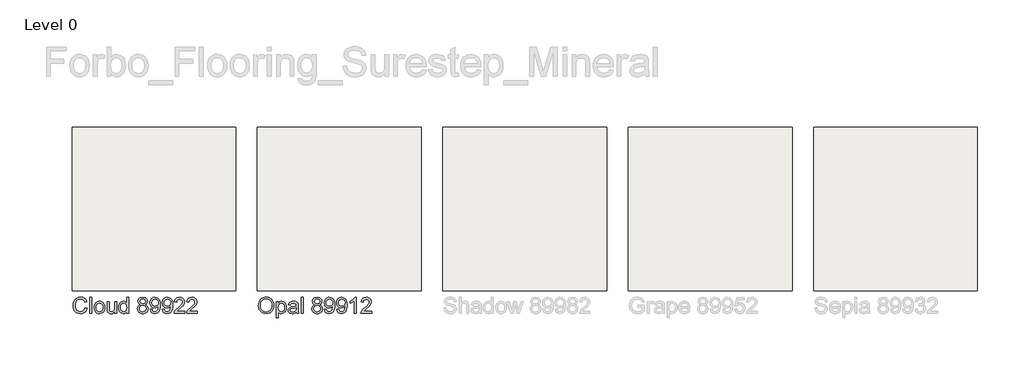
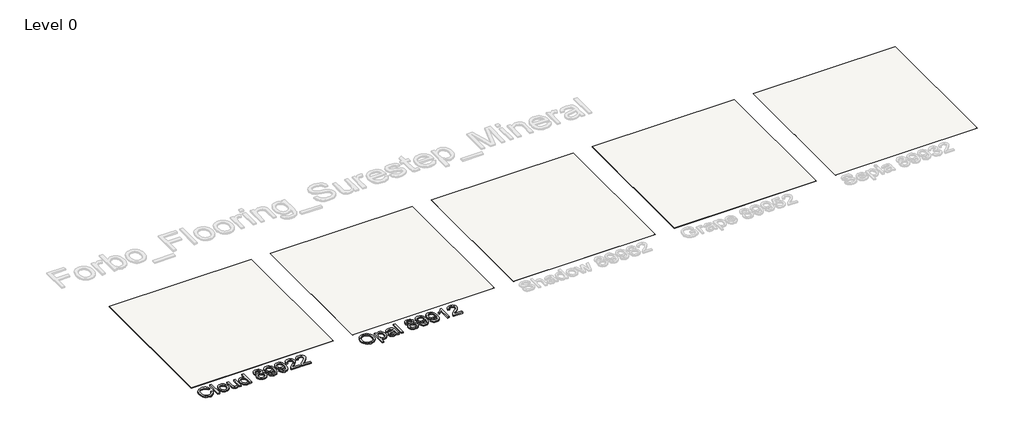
# One storey, part 1 of 4: 5 slabs, 2 proxies.
"""IFC4 building model written with IfcOpenShell, lengths in millimetres."""

from ifc_helpers import new_model, si_unit, frame, origin, origin_with_axes, place, context, project, spatial, polyline, outline, extrude, element, save

model = new_model("IFC4")

# Units and contexts
model_context = context("Model", 3, world=origin())
ifc_project = project(units=[si_unit("LENGTHUNIT", "METRE", prefix="MILLI")], contexts=[model_context])

# Site, building, storey
site = spatial("IfcSite", under=ifc_project)
building = spatial("IfcBuilding", under=site)
storey = spatial("IfcBuildingStorey", under=building, Name="Level 0", Elevation=0.0)

# Proxies
placement = place(None, origin())
element("IfcBuildingElementProxy", 1, Name="300mm Arial", ObjectType="300mm Arial", at=placement, inside=storey, context=model_context, shape_type="SweptSolid", body=[
    extrude(outline(polyline([(-3306.5255394, 2249.3730602), (-3269.6024625, 2239.8538294), (-3276.9086524, 2216.8918403), (-3286.6397221, 2196.8279881), (-3298.7956716, 2179.662273), (-3313.3765009, 2165.3946948), (-3330.0531836, 2154.1784989), (-3348.4966932, 2146.1669304), (-3368.7070298, 2141.3599893), (-3390.6841932, 2139.7576756), (-3433.5117173, 2144.6074352), (-3467.5231355, 2159.1567141), (-3493.5928471, 2182.9007044), (-3512.5952509, 2215.3345987), (-3524.1968134, 2253.4656083), (-3528.0640009, 2294.3009448), (-3523.6920057, 2337.3718583), (-3510.5760202, 2374.5653679), (-3489.4011404, 2404.7005842), (-3460.8524625, 2426.5966179), (-3426.9942894, 2439.9289496), (-3389.890924, 2444.3730602), (-3349.40715, 2438.6218583), (-3331.7952209, 2431.4328559), (-3315.9365971, 2421.3682525), (-3302.0926968, 2408.6939737), (-3290.5249384, 2393.6759448), (-3274.2178471, 2356.6086371), (-3311.140924, 2347.8105602), (-3323.9414048, 2374.7366419), (-3341.4293855, 2393.2071948), (-3363.8212125, 2403.8892862), (-3391.3332317, 2407.4499833), (-3423.0459721, 2403.501666), (-3449.0976548, 2391.6567141), (-3468.8662846, 2373.1591179), (-3481.7298663, 2349.2528679), (-3488.7881596, 2322.2276275), (-3491.140924, 2294.3730602), (-3488.3554673, 2260.2624833), (-3479.9990971, 2230.767291), (-3465.7563086, 2207.0142862), (-3445.3115971, 2190.1302717), (-3420.8013807, 2180.0431323), (-3394.3620779, 2176.6807525), (-3363.5417654, 2181.2600794), (-3337.859674, 2194.9980602), (-3318.46965, 2217.7504641), (-3306.5255394, 2249.3730602)])), origin_with_axes(), (0.0, 0.0, 1.0), 25.0),
    extrude(outline(polyline([(-3223.4486163, 2144.3730602), (-3223.4486163, 2439.7576756), (-3186.5255394, 2439.7576756), (-3186.5255394, 2144.3730602), (-3223.4486163, 2144.3730602)])), origin_with_axes(), (0.0, 0.0, 1.0), 25.0),
    extrude(outline(polyline([(-3140.3716932, 2252.8345987), (-3138.3749985, 2280.9280482), (-3132.3849144, 2305.1362814), (-3122.4014408, 2325.4592982), (-3108.4245779, 2341.8970987), (-3094.3530634, 2352.4034088), (-3078.8212125, 2359.907916), (-3061.829025, 2364.4106203), (-3043.3765009, 2365.9115217), (-3023.0061584, 2364.0838475), (-3004.5874384, 2358.6008246), (-2988.1203411, 2349.4624532), (-2973.6048663, 2336.6687333), (-2961.7576608, 2320.6523571), (-2953.2953711, 2301.8460169), (-2948.2179973, 2280.2497129), (-2946.5255394, 2255.8634448), (-2949.5183279, 2218.5617621), (-2958.4966932, 2190.1663294), (-2973.1992173, 2168.9013054), (-2993.3644817, 2152.9908487), (-3017.3158038, 2143.0659689), (-3043.3765009, 2139.7576756), (-3064.0443194, 2141.5785891), (-3082.6343134, 2147.0413294), (-3099.1464829, 2156.1458967), (-3113.5808279, 2168.892291), (-3125.3018315, 2185.064166), (-3133.6739769, 2204.4451756), (-3138.6972641, 2227.0353198), (-3140.3716932, 2252.8345987)]), holes=[polyline([(-3103.4486163, 2252.9067141), (-3099.1757798, 2219.4902477), (-3086.3572702, 2195.6831564), (-3067.0664048, 2181.4313535), (-3043.3765009, 2176.6807525), (-3019.7947702, 2181.4583967), (-3000.5399625, 2195.7913294), (-2987.7214529, 2219.9139256), (-2983.4486163, 2254.0605602), (-2987.7484961, 2286.5034689), (-3000.6481355, 2309.986041), (-3019.9299865, 2324.2378439), (-3043.3765009, 2328.9884448), (-3067.0664048, 2324.2558727), (-3086.3572702, 2310.0581564), (-3099.1757798, 2286.3051516), (-3103.4486163, 2252.9067141)])]), origin_with_axes(), (0.0, 0.0, 1.0), 25.0),
    extrude(outline(polyline([(-2766.5255394, 2144.3730602), (-2766.5255394, 2181.6567141), (-2779.8849144, 2163.3258847), (-2795.4438086, 2150.2324352), (-2813.2022221, 2142.3763655), (-2833.1601548, 2139.7576756), (-2851.1439288, 2141.5966179), (-2867.8837125, 2147.1134448), (-2881.9281836, 2155.4067141), (-2891.8260202, 2165.5749833), (-2902.8236163, 2192.7624833), (-2904.9870779, 2227.0894064), (-2904.9870779, 2361.2961371), (-2868.0640009, 2361.2961371), (-2868.0640009, 2244.4692141), (-2865.828424, 2206.8249833), (-2860.4468134, 2194.2678919), (-2851.2250586, 2184.7216179), (-2838.7761404, 2178.6909689), (-2823.7130394, 2176.6807525), (-2807.7845538, 2178.736041), (-2792.8837125, 2184.9019064), (-2780.5970538, 2194.61044), (-2772.5111163, 2207.2937333), (-2768.0219336, 2224.6645266), (-2766.5255394, 2248.4355602), (-2766.5255394, 2361.2961371), (-2729.6024625, 2361.2961371), (-2729.6024625, 2144.3730602), (-2766.5255394, 2144.3730602)])), origin_with_axes(), (0.0, 0.0, 1.0), 25.0),
    extrude(outline(polyline([(-2544.9870779, 2144.3730602), (-2544.9870779, 2179.204791), (-2556.0342533, 2161.946678), (-2569.4161644, 2149.6194544), (-2585.132811, 2142.2231203), (-2603.1841932, 2139.7576756), (-2627.0543855, 2143.3273871), (-2648.9053471, 2154.0365217), (-2667.4029432, 2171.1368823), (-2681.2130394, 2193.8802717), (-2689.812799, 2221.3472189), (-2692.6793855, 2252.6182525), (-2690.0381596, 2283.501666), (-2682.1144817, 2311.392291), (-2668.9173663, 2334.7035891), (-2650.4558279, 2351.8490217), (-2628.1271019, 2362.3958967), (-2603.328424, 2365.9115217), (-2585.2635202, 2363.3964977), (-2569.2899625, 2355.8514256), (-2555.750299, 2344.2859208), (-2544.9870779, 2329.7095987), (-2544.9870779, 2439.7576756), (-2508.0640009, 2439.7576756), (-2508.0640009, 2144.3730602), (-2544.9870779, 2144.3730602)]), holes=[polyline([(-2655.7563086, 2252.7624833), (-2651.5916452, 2219.3640458), (-2639.0976548, 2195.611041), (-2620.9426067, 2181.4133246), (-2599.7947702, 2176.6807525), (-2578.655948, 2181.1969785), (-2560.9606355, 2194.7456564), (-2548.9804673, 2217.57919), (-2544.9870779, 2249.9499833), (-2549.0525827, 2285.3406083), (-2561.2490971, 2309.8778679), (-2579.3951307, 2324.2108006), (-2601.3091932, 2328.9884448), (-2622.6733759, 2324.4001035), (-2640.1793855, 2310.6350794), (-2651.8620779, 2286.9902477), (-2655.7563086, 2252.7624833)])]), origin_with_axes(), (0.0, 0.0, 1.0), 25.0),
    extrude(outline(polyline([(-2292.7274625, 2307.0653679), (-2312.4960923, 2316.8009448), (-2326.3692894, 2329.9980602), (-2334.5634, 2346.3862814), (-2337.2947702, 2365.6951756), (-2331.3452509, 2394.5593583), (-2313.4966932, 2418.4115217), (-2300.6105754, 2427.7504641), (-2285.750299, 2434.4211371), (-2250.1072702, 2439.7576756), (-2214.2478952, 2434.2949352), (-2199.2253591, 2427.4665097), (-2186.140924, 2417.9067141), (-2167.9678471, 2393.6759448), (-2163.4245779, 2379.7757044), (-2161.9101548, 2364.6855602), (-2164.6054673, 2345.9986612), (-2172.6914048, 2329.8898871), (-2186.2581115, 2316.7739016), (-2205.3957317, 2307.0653679), (-2182.6703711, 2295.3556323), (-2166.1289048, 2278.111041), (-2156.0417654, 2256.1609208), (-2152.6793855, 2230.3345987), (-2154.3470538, 2211.9181323), (-2159.3500586, 2195.0341179), (-2167.6884, 2179.6825554), (-2179.3620779, 2165.8634448), (-2193.7581115, 2154.4421708), (-2210.2635202, 2146.2841179), (-2228.8783038, 2141.3892862), (-2249.6024625, 2139.7576756), (-2270.3266211, 2141.396047), (-2288.9414048, 2146.3111612), (-2305.4468134, 2154.5030181), (-2319.8428471, 2165.9716179), (-2331.516525, 2179.8876335), (-2339.8548663, 2195.4217381), (-2344.8578711, 2212.5739316), (-2346.5255394, 2231.3442141), (-2343.0279432, 2258.1711371), (-2332.5351548, 2280.2384448), (-2315.5880394, 2296.7889256), (-2292.7274625, 2307.0653679)]), holes=[polyline([(-2309.6024625, 2232.642291), (-2303.4365971, 2204.8418102), (-2294.8999384, 2192.9157285), (-2281.6216932, 2184.0365217), (-2265.7202509, 2178.5196948), (-2249.3140009, 2176.6807525), (-2224.1817894, 2180.54794), (-2205.3236163, 2192.1495025), (-2193.5327509, 2209.7186131), (-2189.6024625, 2231.4884448), (-2193.6589529, 2253.6278679), (-2205.828424, 2271.5845987), (-2225.1192894, 2283.4836371), (-2250.5399625, 2287.4499833), (-2275.3206115, 2283.5377237), (-2293.9894817, 2271.8009448), (-2305.6992173, 2254.1867621), (-2309.6024625, 2232.642291)]), polyline([(-2300.3716932, 2364.6134448), (-2297.0994577, 2348.4956564), (-2287.2827509, 2335.6230602), (-2271.2100346, 2327.1855602), (-2249.1697702, 2324.3730602), (-2227.6433279, 2327.1675314), (-2211.8140009, 2335.5509448), (-2202.078424, 2347.9908487), (-2198.8332317, 2362.954791), (-2202.1865971, 2378.4866419), (-2212.2466932, 2391.3321948), (-2228.2923663, 2399.9589977), (-2249.6024625, 2402.8345987), (-2271.047775, 2400.0220987), (-2287.0664048, 2391.5845987), (-2297.0453711, 2379.2168102), (-2300.3716932, 2364.6134448)])]), origin_with_axes(), (0.0, 0.0, 1.0), 25.0),
    extrude(outline(polyline([(-2115.7563086, 2218.2192141), (-2078.8332317, 2222.8345987), (-2072.5231355, 2201.876065), (-2062.2466932, 2187.6062333), (-2048.2563086, 2179.4121227), (-2030.8043855, 2176.6807525), (-2015.1463327, 2178.438565), (-2000.9125586, 2183.7120025), (-1989.0856355, 2191.9241419), (-1980.6481355, 2202.4980602), (-1968.5688086, 2234.5894064), (-1963.2322702, 2277.4259448), (-1963.4486163, 2284.6374833), (-1976.2400827, 2269.0245025), (-1992.9798663, 2256.6567141), (-2012.4600346, 2248.5978198), (-2033.4726548, 2245.9115217), (-2051.0124685, 2247.5521467), (-2067.141525, 2252.4740217), (-2081.8598242, 2260.6771467), (-2095.1673663, 2272.1615217), (-2106.1942593, 2286.3276876), (-2114.0706115, 2302.5761852), (-2118.7964228, 2320.9070145), (-2120.3716932, 2341.3201756), (-2118.7198002, 2362.4139256), (-2113.7641211, 2381.3442141), (-2105.504656, 2398.111041), (-2093.9414048, 2412.7144064), (-2079.8901728, 2424.5458367), (-2064.1667654, 2432.9968583), (-2046.7711824, 2438.0674713), (-2027.703424, 2439.7576756), (-2000.1643615, 2435.8995025), (-1975.0952509, 2424.3249833), (-1954.1277029, 2405.611041), (-1938.8933279, 2380.3345987), (-1929.6174865, 2345.3946948), (-1926.5255394, 2297.6903679), (-1929.6084721, 2247.11044), (-1938.8572702, 2208.0148871), (-1954.1908038, 2178.6368823), (-1975.5279432, 2157.2095987), (-2001.9492173, 2144.1206564), (-2032.5351548, 2139.7576756), (-2064.1036644, 2144.9049112), (-2089.2899625, 2160.3466179), (-2106.9041452, 2185.1092381), (-2115.7563086, 2218.2192141)]), holes=[polyline([(-1963.4486163, 2342.1855602), (-1967.4329913, 2367.2095987), (-1979.3861163, 2386.4644064), (-1997.937799, 2398.7420506), (-2021.7178471, 2402.8345987), (-2046.3813086, 2398.4265458), (-2066.140924, 2385.2023871), (-2079.1216932, 2364.9650073), (-2083.4486163, 2339.517291), (-2079.3560682, 2316.7017862), (-2067.078424, 2298.5918102), (-2047.8055875, 2286.7739016), (-2022.7274625, 2282.8345987), (-1999.1367173, 2286.7739016), (-1980.1433279, 2298.5918102), (-1967.6222942, 2317.3688535), (-1963.4486163, 2342.1855602)])]), origin_with_axes(), (0.0, 0.0, 1.0), 25.0),
    extrude(outline(polyline([(-1889.6024625, 2218.2192141), (-1852.6793855, 2222.8345987), (-1846.3692894, 2201.876065), (-1836.0928471, 2187.6062333), (-1822.1024625, 2179.4121227), (-1804.6505394, 2176.6807525), (-1788.9924865, 2178.438565), (-1774.7587125, 2183.7120025), (-1762.9317894, 2191.9241419), (-1754.4942894, 2202.4980602), (-1742.4149625, 2234.5894064), (-1737.078424, 2277.4259448), (-1737.2947702, 2284.6374833), (-1750.0862365, 2269.0245025), (-1766.8260202, 2256.6567141), (-1786.3061884, 2248.5978198), (-1807.3188086, 2245.9115217), (-1824.8586223, 2247.5521467), (-1840.9876788, 2252.4740217), (-1855.7059781, 2260.6771467), (-1869.0135202, 2272.1615217), (-1880.0404132, 2286.3276876), (-1887.9167654, 2302.5761852), (-1892.6425766, 2320.9070145), (-1894.2178471, 2341.3201756), (-1892.5659541, 2362.4139256), (-1887.610275, 2381.3442141), (-1879.3508098, 2398.111041), (-1867.7875586, 2412.7144064), (-1853.7363266, 2424.5458367), (-1838.0129192, 2432.9968583), (-1820.6173363, 2438.0674713), (-1801.5495779, 2439.7576756), (-1774.0105154, 2435.8995025), (-1748.9414048, 2424.3249833), (-1727.9738567, 2405.611041), (-1712.7394817, 2380.3345987), (-1703.4636404, 2345.3946948), (-1700.3716932, 2297.6903679), (-1703.4546259, 2247.11044), (-1712.703424, 2208.0148871), (-1728.0369577, 2178.6368823), (-1749.3740971, 2157.2095987), (-1775.7953711, 2144.1206564), (-1806.3813086, 2139.7576756), (-1837.9498182, 2144.9049112), (-1863.1361163, 2160.3466179), (-1880.750299, 2185.1092381), (-1889.6024625, 2218.2192141)]), holes=[polyline([(-1737.2947702, 2342.1855602), (-1741.2791452, 2367.2095987), (-1753.2322702, 2386.4644064), (-1771.7839529, 2398.7420506), (-1795.5640009, 2402.8345987), (-1820.2274625, 2398.4265458), (-1839.9870779, 2385.2023871), (-1852.9678471, 2364.9650073), (-1857.2947702, 2339.517291), (-1853.2022221, 2316.7017862), (-1840.9245779, 2298.5918102), (-1821.6517413, 2286.7739016), (-1796.5736163, 2282.8345987), (-1772.9828711, 2286.7739016), (-1753.9894817, 2298.5918102), (-1741.468448, 2317.3688535), (-1737.2947702, 2342.1855602)])]), origin_with_axes(), (0.0, 0.0, 1.0), 25.0),
    extrude(outline(polyline([(-1478.8332317, 2181.2961371), (-1478.8332317, 2144.3730602), (-1672.6793855, 2144.3730602), (-1668.7130394, 2169.829791), (-1659.6084721, 2189.7246227), (-1646.2851548, 2209.0245025), (-1627.0123182, 2229.2258246), (-1600.0591932, 2251.8249833), (-1560.2154432, 2287.2156083), (-1536.3091932, 2313.3394064), (-1524.3560682, 2334.5413294), (-1520.3716932, 2355.1663294), (-1524.1307077, 2373.6549112), (-1535.4077509, 2389.0245025), (-1552.7424865, 2399.3820746), (-1574.6745779, 2402.8345987), (-1597.7064288, 2399.4632044), (-1615.6000586, 2389.3490217), (-1627.1475346, 2373.2853198), (-1631.140924, 2352.0653679), (-1668.0640009, 2356.6807525), (-1659.1126788, 2392.3958967), (-1650.7360262, 2406.6431924), (-1639.7587125, 2418.4836371), (-1626.4331416, 2427.791029), (-1611.0117173, 2434.439166), (-1573.8813086, 2439.7576756), (-1554.0923964, 2438.2793102), (-1536.4804673, 2433.8442141), (-1521.0455214, 2426.4523871), (-1507.7875586, 2416.1038294), (-1497.1392714, 2403.5647669), (-1489.5333519, 2389.6014256), (-1484.9698002, 2374.2138054), (-1483.4486163, 2357.4019064), (-1485.0892413, 2339.7426516), (-1490.0111163, 2322.3898871), (-1498.7460923, 2304.7396467), (-1511.8260202, 2286.1879641), (-1532.6763807, 2264.0395266), (-1564.7226548, 2235.5990217), (-1607.1986163, 2200.0821948), (-1623.8572702, 2181.2961371), (-1478.8332317, 2181.2961371)])), origin_with_axes(), (0.0, 0.0, 1.0), 25.0),
    extrude(outline(polyline([(-1252.6793855, 2181.2961371), (-1252.6793855, 2144.3730602), (-1446.5255394, 2144.3730602), (-1442.5591932, 2169.829791), (-1433.4546259, 2189.7246227), (-1420.1313086, 2209.0245025), (-1400.8584721, 2229.2258246), (-1373.9053471, 2251.8249833), (-1334.0615971, 2287.2156083), (-1310.1553471, 2313.3394064), (-1298.2022221, 2334.5413294), (-1294.2178471, 2355.1663294), (-1297.9768615, 2373.6549112), (-1309.2539048, 2389.0245025), (-1326.5886404, 2399.3820746), (-1348.5207317, 2402.8345987), (-1371.5525827, 2399.4632044), (-1389.4462125, 2389.3490217), (-1400.9936884, 2373.2853198), (-1404.9870779, 2352.0653679), (-1441.9101548, 2356.6807525), (-1432.9588327, 2392.3958967), (-1424.58218, 2406.6431924), (-1413.6048663, 2418.4836371), (-1400.2792954, 2427.791029), (-1384.8578711, 2434.439166), (-1347.7274625, 2439.7576756), (-1327.9385502, 2438.2793102), (-1310.3266211, 2433.8442141), (-1294.8916752, 2426.4523871), (-1281.6337125, 2416.1038294), (-1270.9854252, 2403.5647669), (-1263.3795057, 2389.6014256), (-1258.8159541, 2374.2138054), (-1257.2947702, 2357.4019064), (-1258.9353952, 2339.7426516), (-1263.8572702, 2322.3898871), (-1272.5922461, 2304.7396467), (-1285.672174, 2286.1879641), (-1306.5225346, 2264.0395266), (-1338.5688086, 2235.5990217), (-1381.0447702, 2200.0821948), (-1397.703424, 2181.2961371), (-1252.6793855, 2181.2961371)])), origin_with_axes(), (0.0, 0.0, 1.0), 25.0),
])
element("IfcBuildingElementProxy", 2, Name="300mm Arial", ObjectType="300mm Arial", at=placement, inside=storey, context=model_context, shape_type="SweptSolid", body=[
    extrude(outline(polyline([(-128.0640009, 2288.1711371), (-125.6030634, 2322.8180722), (-118.2202509, 2353.4896467), (-105.9155634, 2380.1858607), (-88.6890009, 2402.9067141), (-67.5727149, 2421.0482405), (-43.5988567, 2434.0064737), (-16.7674264, 2441.7814136), (12.921576, 2444.3730602), (51.6655664, 2439.5052717), (86.4071529, 2424.9019064), (115.2533068, 2401.5906083), (136.3109991, 2370.5990217), (149.1835952, 2333.423541), (153.4744606, 2291.5605602), (148.9582346, 2249.1386852), (135.4095568, 2211.4403679), (113.5766241, 2180.3946948), (84.2076337, 2157.9307525), (49.7635231, 2144.3009448), (12.7052298, 2139.7576756), (-26.6337125, 2144.7787092), (-61.5736163, 2159.8418102), (-90.3476548, 2183.5858006), (-111.1890009, 2214.6495025), (-123.8452509, 2250.39169), (-128.0640009, 2288.1711371)]), holes=[polyline([(-91.140924, 2287.8105602), (-89.2952209, 2263.3318943), (-83.7581115, 2241.6026275), (-74.5295959, 2222.6227597), (-61.609674, 2206.392291), (-45.9042954, 2193.3934929), (-28.3194096, 2184.1086371), (-8.8550166, 2178.5377237), (12.4888837, 2176.6807525), (34.1978681, 2178.5557525), (53.8921289, 2184.1807525), (71.5716661, 2193.5557525), (87.2364798, 2206.6807525), (100.0617503, 2223.2537693), (109.2226577, 2242.9728198), (114.7192022, 2265.837904), (116.5513837, 2291.8490217), (113.4143645, 2324.5353198), (104.0033068, 2352.7865217), (88.5616, 2375.8904881), (67.3326337, 2393.1350794), (41.7226577, 2403.8712573), (13.1379221, 2407.4499833), (-7.4645418, 2405.7259749), (-26.5796259, 2400.5539496), (-44.2073303, 2391.9339076), (-60.3476548, 2379.8658487), (-73.8197101, 2363.7683427), (-83.4426067, 2343.0599592), (-89.2163447, 2317.7406984), (-91.140924, 2287.8105602)])]), origin_with_axes(), (0.0, 0.0, 1.0), 25.0),
    extrude(outline(polyline([(199.6283068, 2061.2961371), (199.6283068, 2361.2961371), (236.5513837, 2361.2961371), (236.5513837, 2325.0942141), (248.5946529, 2342.9517862), (262.0802298, 2355.7071948), (277.8013837, 2363.36044), (296.5513837, 2365.9115217), (321.5213356, 2362.3418102), (343.3542683, 2351.6326756), (361.1307106, 2334.4331564), (373.9311914, 2311.392291), (381.6655664, 2284.1867621), (384.2436914, 2254.4932525), (381.3320327, 2222.9157285), (372.5970568, 2194.673541), (358.3182106, 2171.1999833), (338.7749414, 2153.9283487), (316.0135231, 2143.3003439), (292.0802298, 2139.7576756), (275.1060712, 2142.1284689), (259.952826, 2149.2408487), (246.9810712, 2159.9770266), (236.5513837, 2173.2192141), (236.5513837, 2061.2961371), (199.6283068, 2061.2961371)]), holes=[polyline([(236.5513837, 2251.1038294), (240.5447731, 2218.0028679), (252.5249414, 2194.8538294), (270.202225, 2181.2240217), (291.2869606, 2176.6807525), (312.7142443, 2181.3862814), (330.8422491, 2195.5028679), (343.2010231, 2219.4992621), (347.3206145, 2253.8442141), (343.3001818, 2286.7648871), (331.2388837, 2310.2384448), (313.5886433, 2324.3009448), (292.8013837, 2328.9884448), (271.9329943, 2324.0034689), (253.6066721, 2309.048541), (240.8152058, 2284.5924112), (236.5513837, 2251.1038294)])]), origin_with_axes(), (0.0, 0.0, 1.0), 25.0),
    extrude(outline(polyline([(564.2436914, 2172.0653679), (546.6024654, 2156.939166), (528.4384029, 2147.0413294), (509.3368404, 2141.5785891), (488.8831145, 2139.7576756), (458.0267443, 2144.1386852), (435.265326, 2157.2817141), (421.2298693, 2177.2396467), (416.5513837, 2202.0653679), (418.3182106, 2217.3718583), (423.6186914, 2231.2720987), (431.7947731, 2243.1711371), (442.1884029, 2252.4740217), (468.0417683, 2264.5894064), (499.9888837, 2270.142291), (537.7412875, 2275.9836371), (564.0273452, 2282.8345987), (564.2436914, 2291.0557525), (561.7016241, 2307.5341179), (554.0754221, 2318.3153679), (537.0201337, 2326.3201756), (513.2581145, 2328.9884448), (491.2629221, 2327.2126035), (475.9023452, 2321.8850794), (465.4275856, 2312.032315), (458.0898452, 2296.6807525), (421.1667683, 2301.2961371), (427.5760231, 2321.4884448), (437.140326, 2337.3538294), (450.7521048, 2349.4872429), (469.3037875, 2358.4836371), (491.9930904, 2364.0545506), (518.0177298, 2365.9115217), (542.9786673, 2364.2708967), (562.765326, 2359.3490217), (577.6841962, 2351.9481804), (588.0417683, 2342.8706564), (594.9107587, 2331.6476996), (599.3638837, 2317.8105602), (601.1667683, 2285.5028679), (601.1667683, 2239.5653679), (603.0417683, 2175.4187333), (610.3975375, 2144.3730602), (573.4744606, 2144.3730602), (564.2436914, 2172.0653679)]), holes=[polyline([(564.2436914, 2245.9115217), (504.6763837, 2234.5894064), (472.9095568, 2228.6038294), (458.5225375, 2218.8682525), (453.4744606, 2204.6615217), (456.2238596, 2193.6819544), (464.4720568, 2184.6855602), (478.0387635, 2178.6819544), (496.7436914, 2176.6807525), (516.5754221, 2178.8892862), (534.0994606, 2185.5148871), (548.3061914, 2195.2775073), (558.1859991, 2206.8970987), (562.5670087, 2218.8682525), (564.0273452, 2235.454791), (564.2436914, 2245.9115217)])]), origin_with_axes(), (0.0, 0.0, 1.0), 25.0),
    extrude(outline(polyline([(651.9359991, 2144.3730602), (651.9359991, 2439.7576756), (688.859076, 2439.7576756), (688.859076, 2144.3730602), (651.9359991, 2144.3730602)])), origin_with_axes(), (0.0, 0.0, 1.0), 25.0),
    extrude(outline(polyline([(904.1956145, 2307.0653679), (884.4269846, 2316.8009448), (870.5537875, 2329.9980602), (862.359677, 2346.3862814), (859.6283068, 2365.6951756), (865.577826, 2394.5593583), (883.4263837, 2418.4115217), (896.3125015, 2427.7504641), (911.1727779, 2434.4211371), (946.8158068, 2439.7576756), (982.6751818, 2434.2949352), (997.6977178, 2427.4665097), (1010.7821529, 2417.9067141), (1028.9552298, 2393.6759448), (1033.4984991, 2379.7757044), (1035.0129221, 2364.6855602), (1032.3176096, 2345.9986612), (1024.2316721, 2329.8898871), (1010.6649654, 2316.7739016), (991.5273452, 2307.0653679), (1014.2527058, 2295.3556323), (1030.7941721, 2278.111041), (1040.8813116, 2256.1609208), (1044.2436914, 2230.3345987), (1042.5760231, 2211.9181323), (1037.5730183, 2195.0341179), (1029.234677, 2179.6825554), (1017.5609991, 2165.8634448), (1003.1649654, 2154.4421708), (986.6595568, 2146.2841179), (968.0447731, 2141.3892862), (947.3206145, 2139.7576756), (926.5964558, 2141.396047), (907.9816721, 2146.3111612), (891.4762635, 2154.5030181), (877.0802298, 2165.9716179), (865.406552, 2179.8876335), (857.0682106, 2195.4217381), (852.0652058, 2212.5739316), (850.3975375, 2231.3442141), (853.8951337, 2258.1711371), (864.3879221, 2280.2384448), (881.3350375, 2296.7889256), (904.1956145, 2307.0653679)]), holes=[polyline([(896.5513837, 2364.6134448), (899.8236193, 2348.4956564), (909.640326, 2335.6230602), (925.7130423, 2327.1855602), (947.7533068, 2324.3730602), (969.2797491, 2327.1675314), (985.109076, 2335.5509448), (994.8446529, 2347.9908487), (998.0898452, 2362.954791), (994.7364798, 2378.4866419), (984.6763837, 2391.3321948), (968.6307106, 2399.9589977), (947.3206145, 2402.8345987), (925.875302, 2400.0220987), (909.8566721, 2391.5845987), (899.8777058, 2379.2168102), (896.5513837, 2364.6134448)]), polyline([(887.3206145, 2232.642291), (893.4864798, 2204.8418102), (902.0231385, 2192.9157285), (915.3013837, 2184.0365217), (931.202826, 2178.5196948), (947.609076, 2176.6807525), (972.7412875, 2180.54794), (991.5994606, 2192.1495025), (1003.390326, 2209.7186131), (1007.3206145, 2231.4884448), (1003.2641241, 2253.6278679), (991.0946529, 2271.5845987), (971.8037875, 2283.4836371), (946.3831145, 2287.4499833), (921.6024654, 2283.5377237), (902.9335952, 2271.8009448), (891.2238596, 2254.1867621), (887.3206145, 2232.642291)])]), origin_with_axes(), (0.0, 0.0, 1.0), 25.0),
    extrude(outline(polyline([(1081.1667683, 2218.2192141), (1118.0898452, 2222.8345987), (1124.3999414, 2201.876065), (1134.6763837, 2187.6062333), (1148.6667683, 2179.4121227), (1166.1186914, 2176.6807525), (1181.7767443, 2178.438565), (1196.0105183, 2183.7120025), (1207.8374414, 2191.9241419), (1216.2749414, 2202.4980602), (1228.3542683, 2234.5894064), (1233.6908068, 2277.4259448), (1233.4744606, 2284.6374833), (1220.6829943, 2269.0245025), (1203.9432106, 2256.6567141), (1184.4630423, 2248.5978198), (1163.4504221, 2245.9115217), (1145.9106084, 2247.5521467), (1129.781552, 2252.4740217), (1115.0632527, 2260.6771467), (1101.7557106, 2272.1615217), (1090.7288176, 2286.3276876), (1082.8524654, 2302.5761852), (1078.1266541, 2320.9070145), (1076.5513837, 2341.3201756), (1078.2032767, 2362.4139256), (1083.1589558, 2381.3442141), (1091.4184209, 2398.111041), (1102.9816721, 2412.7144064), (1117.0329041, 2424.5458367), (1132.7563116, 2432.9968583), (1150.1518945, 2438.0674713), (1169.2196529, 2439.7576756), (1196.7587154, 2435.8995025), (1221.827826, 2424.3249833), (1242.7953741, 2405.611041), (1258.0297491, 2380.3345987), (1267.3055904, 2345.3946948), (1270.3975375, 2297.6903679), (1267.3146048, 2247.11044), (1258.0658068, 2208.0148871), (1242.7322731, 2178.6368823), (1221.3951337, 2157.2095987), (1194.9738596, 2144.1206564), (1164.3879221, 2139.7576756), (1132.8194125, 2144.9049112), (1107.6331145, 2160.3466179), (1090.0189318, 2185.1092381), (1081.1667683, 2218.2192141)]), holes=[polyline([(1233.4744606, 2342.1855602), (1229.4900856, 2367.2095987), (1217.5369606, 2386.4644064), (1198.9852779, 2398.7420506), (1175.2052298, 2402.8345987), (1150.5417683, 2398.4265458), (1130.7821529, 2385.2023871), (1117.8013837, 2364.9650073), (1113.4744606, 2339.517291), (1117.5670087, 2316.7017862), (1129.8446529, 2298.5918102), (1149.1174895, 2286.7739016), (1174.1956145, 2282.8345987), (1197.7863596, 2286.7739016), (1216.7797491, 2298.5918102), (1229.3007827, 2317.3688535), (1233.4744606, 2342.1855602)])]), origin_with_axes(), (0.0, 0.0, 1.0), 25.0),
    extrude(outline(polyline([(1307.3206145, 2218.2192141), (1344.2436914, 2222.8345987), (1350.5537875, 2201.876065), (1360.8302298, 2187.6062333), (1374.8206145, 2179.4121227), (1392.2725375, 2176.6807525), (1407.9305904, 2178.438565), (1422.1643645, 2183.7120025), (1433.9912875, 2191.9241419), (1442.4287875, 2202.4980602), (1454.5081145, 2234.5894064), (1459.8446529, 2277.4259448), (1459.6283068, 2284.6374833), (1446.8368404, 2269.0245025), (1430.0970568, 2256.6567141), (1410.6168885, 2248.5978198), (1389.6042683, 2245.9115217), (1372.0644546, 2247.5521467), (1355.9353981, 2252.4740217), (1341.2170988, 2260.6771467), (1327.9095568, 2272.1615217), (1316.8826637, 2286.3276876), (1309.0063116, 2302.5761852), (1304.2805003, 2320.9070145), (1302.7052298, 2341.3201756), (1304.3571229, 2362.4139256), (1309.312802, 2381.3442141), (1317.5722671, 2398.111041), (1329.1355183, 2412.7144064), (1343.1867503, 2424.5458367), (1358.9101577, 2432.9968583), (1376.3057407, 2438.0674713), (1395.3734991, 2439.7576756), (1422.9125616, 2435.8995025), (1447.9816721, 2424.3249833), (1468.9492202, 2405.611041), (1484.1835952, 2380.3345987), (1493.4594366, 2345.3946948), (1496.5513837, 2297.6903679), (1493.468451, 2247.11044), (1484.2196529, 2208.0148871), (1468.8861193, 2178.6368823), (1447.5489798, 2157.2095987), (1421.1277058, 2144.1206564), (1390.5417683, 2139.7576756), (1358.9732587, 2144.9049112), (1333.7869606, 2160.3466179), (1316.1727779, 2185.1092381), (1307.3206145, 2218.2192141)]), holes=[polyline([(1459.6283068, 2342.1855602), (1455.6439318, 2367.2095987), (1443.6908068, 2386.4644064), (1425.1391241, 2398.7420506), (1401.359076, 2402.8345987), (1376.6956145, 2398.4265458), (1356.9359991, 2385.2023871), (1343.9552298, 2364.9650073), (1339.6283068, 2339.517291), (1343.7208548, 2316.7017862), (1355.9984991, 2298.5918102), (1375.2713356, 2286.7739016), (1400.3494606, 2282.8345987), (1423.9402058, 2286.7739016), (1442.9335952, 2298.5918102), (1455.4546289, 2317.3688535), (1459.6283068, 2342.1855602)])]), origin_with_axes(), (0.0, 0.0, 1.0), 25.0),
    extrude(outline(polyline([(1667.3206145, 2144.3730602), (1630.3975375, 2144.3730602), (1630.3975375, 2374.5653679), (1595.421576, 2349.6495025), (1556.5513837, 2331.0076756), (1556.5513837, 2365.9115217), (1585.5507827, 2381.6867621), (1610.6739798, 2400.454791), (1630.4786673, 2420.4127237), (1643.5225375, 2439.7576756), (1667.3206145, 2439.7576756), (1667.3206145, 2144.3730602)])), origin_with_axes(), (0.0, 0.0, 1.0), 25.0),
    extrude(outline(polyline([(1944.2436914, 2181.2961371), (1944.2436914, 2144.3730602), (1750.3975375, 2144.3730602), (1754.3638837, 2169.829791), (1763.468451, 2189.7246227), (1776.7917683, 2209.0245025), (1796.0646048, 2229.2258246), (1823.0177298, 2251.8249833), (1862.8614798, 2287.2156083), (1886.7677298, 2313.3394064), (1898.7208548, 2334.5413294), (1902.7052298, 2355.1663294), (1898.9462154, 2373.6549112), (1887.6691721, 2389.0245025), (1870.3344366, 2399.3820746), (1848.4023452, 2402.8345987), (1825.3704943, 2399.4632044), (1807.4768645, 2389.3490217), (1795.9293885, 2373.2853198), (1791.9359991, 2352.0653679), (1755.0129221, 2356.6807525), (1763.9642443, 2392.3958967), (1772.3408969, 2406.6431924), (1783.3182106, 2418.4836371), (1796.6437815, 2427.791029), (1812.0652058, 2434.439166), (1849.1956145, 2439.7576756), (1868.9845267, 2438.2793102), (1886.5964558, 2433.8442141), (1902.0314017, 2426.4523871), (1915.2893645, 2416.1038294), (1925.9376517, 2403.5647669), (1933.5435712, 2389.6014256), (1938.1071229, 2374.2138054), (1939.6283068, 2357.4019064), (1937.9876818, 2339.7426516), (1933.0658068, 2322.3898871), (1924.3308308, 2304.7396467), (1911.2509029, 2286.1879641), (1890.4005423, 2264.0395266), (1858.3542683, 2235.5990217), (1815.8783068, 2200.0821948), (1799.2196529, 2181.2961371), (1944.2436914, 2181.2961371)])), origin_with_axes(), (0.0, 0.0, 1.0), 25.0),
])

# Slabs
element("IfcSlab", 3, ObjectType="Forbo_Surestep_Mineral_Cloud_89922", at=placement, inside=storey, context=model_context, shape_type="SweptSolid", body=[
    extrude(outline(polyline([(-546.5255394, 5559.2600081), (-546.5255394, 2559.2600081), (-3546.5255394, 2559.2600081), (-3546.5255394, 5559.2600081), (-546.5255394, 5559.2600081)])), frame((0.0, 0.0, -2.0), z_axis=(0.0, 0.0, 1.0), x_axis=(1.0, 0.0, 0.0)), (0.0, 0.0, 1.0), 2.0),
])
element("IfcSlab", 4, ObjectType="Forbo_Surestep_Mineral_Opal_89912", at=placement, inside=storey, context=model_context, shape_type="SweptSolid", body=[
    extrude(outline(polyline([(2853.4744606, 5559.2600081), (2853.4744606, 2559.2600081), (-146.5255394, 2559.2600081), (-146.5255394, 5559.2600081), (2853.4744606, 5559.2600081)])), frame((0.0, 0.0, -2.0), z_axis=(0.0, 0.0, 1.0), x_axis=(1.0, 0.0, 0.0)), (0.0, 0.0, 1.0), 2.0),
])
element("IfcSlab", 5, ObjectType="Forbo_Surestep_Mineral_Shadow_89982", at=placement, inside=storey, context=model_context, shape_type="SweptSolid", body=[
    extrude(outline(polyline([(6253.4744606, 5559.2600081), (6253.4744606, 2559.2600081), (3253.4744606, 2559.2600081), (3253.4744606, 5559.2600081), (6253.4744606, 5559.2600081)])), frame((0.0, 0.0, -2.0), z_axis=(0.0, 0.0, 1.0), x_axis=(1.0, 0.0, 0.0)), (0.0, 0.0, 1.0), 2.0),
])
element("IfcSlab", 6, ObjectType="Forbo_Surestep_Mineral_Grape_89952", at=placement, inside=storey, context=model_context, shape_type="SweptSolid", body=[
    extrude(outline(polyline([(9653.4744606, 5559.2600081), (9653.4744606, 2559.2600081), (6653.4744606, 2559.2600081), (6653.4744606, 5559.2600081), (9653.4744606, 5559.2600081)])), frame((0.0, 0.0, -2.0), z_axis=(0.0, 0.0, 1.0), x_axis=(1.0, 0.0, 0.0)), (0.0, 0.0, 1.0), 2.0),
])
element("IfcSlab", 7, ObjectType="Forbo_Surestep_Mineral_Sepia_89932", at=placement, inside=storey, context=model_context, shape_type="SweptSolid", body=[
    extrude(outline(polyline([(13053.4744606, 5559.2600081), (13053.4744606, 2559.2600081), (10053.4744606, 2559.2600081), (10053.4744606, 5559.2600081), (13053.4744606, 5559.2600081)])), frame((0.0, 0.0, -2.0), z_axis=(0.0, 0.0, 1.0), x_axis=(1.0, 0.0, 0.0)), (0.0, 0.0, 1.0), 2.0),
])

save(model, "model.ifc")
